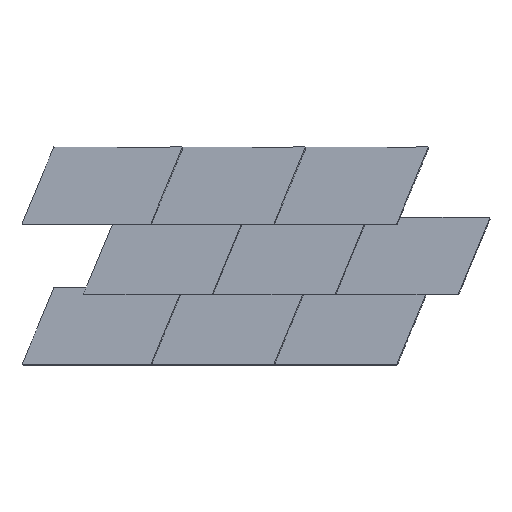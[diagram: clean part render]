
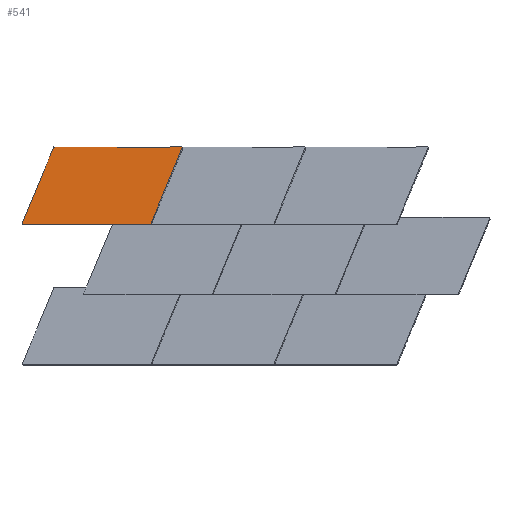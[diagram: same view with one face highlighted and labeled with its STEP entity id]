
A CAD part, top view. The second image highlights one B-rep face of the part: STEP entity #541.
In plain terms, the highlighted planar face has unit normal (-0.017, 0.044, 0.999).
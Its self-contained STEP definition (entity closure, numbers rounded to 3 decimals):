
#14=PLANE('',#1991);
#541=ADVANCED_FACE('',(#586),#14,.T.);
#586=FACE_OUTER_BOUND('',#631,.T.);
#631=EDGE_LOOP('',(#689,#690,#691,#692,#693,#694,#695,#696,#697,#698,#699,
#700));
#689=ORIENTED_EDGE('',*,*,#1004,.F.);
#690=ORIENTED_EDGE('',*,*,#1005,.F.);
#691=ORIENTED_EDGE('',*,*,#1006,.T.);
#692=ORIENTED_EDGE('',*,*,#1008,.T.);
#693=ORIENTED_EDGE('',*,*,#1013,.T.);
#694=ORIENTED_EDGE('',*,*,#1011,.T.);
#695=ORIENTED_EDGE('',*,*,#1009,.T.);
#696=ORIENTED_EDGE('',*,*,#1010,.T.);
#697=ORIENTED_EDGE('',*,*,#1014,.T.);
#698=ORIENTED_EDGE('',*,*,#1015,.T.);
#699=ORIENTED_EDGE('',*,*,#1007,.T.);
#700=ORIENTED_EDGE('',*,*,#1012,.T.);
#1004=EDGE_CURVE('',#1645,#1644,#1310,.T.);
#1005=EDGE_CURVE('',#1646,#1645,#1311,.T.);
#1006=EDGE_CURVE('',#1646,#1647,#1312,.T.);
#1007=EDGE_CURVE('',#1654,#1655,#1313,.T.);
#1008=EDGE_CURVE('',#1647,#1649,#1314,.T.);
#1009=EDGE_CURVE('',#1650,#1651,#1315,.T.);
#1010=EDGE_CURVE('',#1651,#1652,#1316,.T.);
#1011=EDGE_CURVE('',#1648,#1650,#1317,.T.);
#1012=EDGE_CURVE('',#1655,#1644,#1318,.T.);
#1013=EDGE_CURVE('',#1649,#1648,#1319,.T.);
#1014=EDGE_CURVE('',#1652,#1653,#1320,.T.);
#1015=EDGE_CURVE('',#1653,#1654,#1530,.T.);
#1310=B_SPLINE_CURVE_WITH_KNOTS('',1,(#2141,#2142),.UNSPECIFIED.,.F.,.F.,
(2,2),(-281.876,0.),.UNSPECIFIED.);
#1311=B_SPLINE_CURVE_WITH_KNOTS('',1,(#2143,#2144),.UNSPECIFIED.,.F.,.F.,
(2,2),(0.,3.262),.UNSPECIFIED.);
#1312=B_SPLINE_CURVE_WITH_KNOTS('',1,(#2145,#2146),.UNSPECIFIED.,.F.,.F.,
(2,2),(0.,433.287),.UNSPECIFIED.);
#1313=B_SPLINE_CURVE_WITH_KNOTS('',1,(#2147,#2148),.UNSPECIFIED.,.F.,.F.,
(2,2),(0.,0.),.UNSPECIFIED.);
#1314=B_SPLINE_CURVE_WITH_KNOTS('',1,(#2149,#2150),.UNSPECIFIED.,.F.,.F.,
(2,2),(433.287,435.209),.UNSPECIFIED.);
#1315=B_SPLINE_CURVE_WITH_KNOTS('',1,(#2151,#2152),.UNSPECIFIED.,.F.,.F.,
(2,2),(0.,0.236),.UNSPECIFIED.);
#1316=B_SPLINE_CURVE_WITH_KNOTS('',1,(#2153,#2154),.UNSPECIFIED.,.F.,.F.,
(2,2),(-284.584,0.),.UNSPECIFIED.);
#1317=B_SPLINE_CURVE_WITH_KNOTS('',1,(#2155,#2156),.UNSPECIFIED.,.F.,.F.,
(2,2),(-2.461,0.),.UNSPECIFIED.);
#1318=B_SPLINE_CURVE_WITH_KNOTS('',1,(#2157,#2158),.UNSPECIFIED.,.F.,.F.,
(2,2),(0.,434.961),.UNSPECIFIED.);
#1319=B_SPLINE_CURVE_WITH_KNOTS('',1,(#2159,#2160),.UNSPECIFIED.,.F.,.F.,
(2,2),(0.,0.),.UNSPECIFIED.);
#1320=B_SPLINE_CURVE_WITH_KNOTS('',1,(#2161,#2162),.UNSPECIFIED.,.F.,.F.,
(2,2),(0.,2.3),.UNSPECIFIED.);
#1530=(
BOUNDED_CURVE()
B_SPLINE_CURVE(2,(#2163,#2164,#2165),.UNSPECIFIED.,.F.,.F.)
B_SPLINE_CURVE_WITH_KNOTS((3,3),(-2.629,0.),.UNSPECIFIED.)
CURVE()
GEOMETRIC_REPRESENTATION_ITEM()
RATIONAL_B_SPLINE_CURVE((1.,0.991,1.))
REPRESENTATION_ITEM('')
);
#1644=VERTEX_POINT('',#2129);
#1645=VERTEX_POINT('',#2130);
#1646=VERTEX_POINT('',#2131);
#1647=VERTEX_POINT('',#2132);
#1648=VERTEX_POINT('',#2133);
#1649=VERTEX_POINT('',#2134);
#1650=VERTEX_POINT('',#2135);
#1651=VERTEX_POINT('',#2136);
#1652=VERTEX_POINT('',#2137);
#1653=VERTEX_POINT('',#2138);
#1654=VERTEX_POINT('',#2139);
#1655=VERTEX_POINT('',#2140);
#1991=AXIS2_PLACEMENT_3D('',#2128,#2013,$);
#2013=DIRECTION('',(-0.017,0.044,0.999));
#2128=CARTESIAN_POINT('',(-796.211,125.805,9.91));
#2129=CARTESIAN_POINT('',(-301.72,152.697,16.983));
#2130=CARTESIAN_POINT('',(-193.866,412.946,7.398));
#2131=CARTESIAN_POINT('',(-195.114,415.956,7.246));
#2132=CARTESIAN_POINT('',(-628.341,415.64,0.032));
#2133=CARTESIAN_POINT('',(-630.262,415.639,0.));
#2134=CARTESIAN_POINT('',(-630.262,415.639,0.));
#2135=CARTESIAN_POINT('',(-632.536,416.578,-0.079));
#2136=CARTESIAN_POINT('',(-632.453,416.357,-0.068));
#2137=CARTESIAN_POINT('',(-741.344,153.608,9.609));
#2138=CARTESIAN_POINT('',(-739.219,152.73,9.683));
#2139=CARTESIAN_POINT('',(-736.621,152.388,9.741));
#2140=CARTESIAN_POINT('',(-736.621,152.388,9.741));
#2141=CARTESIAN_POINT('',(-193.866,412.946,7.398));
#2142=CARTESIAN_POINT('',(-301.72,152.697,16.983));
#2143=CARTESIAN_POINT('',(-195.114,415.956,7.246));
#2144=CARTESIAN_POINT('',(-193.866,412.946,7.398));
#2145=CARTESIAN_POINT('',(-195.114,415.956,7.246));
#2146=CARTESIAN_POINT('',(-628.341,415.64,0.032));
#2147=CARTESIAN_POINT('',(-736.621,152.388,9.741));
#2148=CARTESIAN_POINT('',(-736.621,152.388,9.741));
#2149=CARTESIAN_POINT('',(-628.341,415.64,0.032));
#2150=CARTESIAN_POINT('',(-630.262,415.639,0.));
#2151=CARTESIAN_POINT('',(-632.536,416.578,-0.079));
#2152=CARTESIAN_POINT('',(-632.453,416.357,-0.068));
#2153=CARTESIAN_POINT('',(-632.453,416.357,-0.068));
#2154=CARTESIAN_POINT('',(-741.344,153.608,9.609));
#2155=CARTESIAN_POINT('',(-630.262,415.639,0.));
#2156=CARTESIAN_POINT('',(-632.536,416.578,-0.079));
#2157=CARTESIAN_POINT('',(-736.621,152.388,9.741));
#2158=CARTESIAN_POINT('',(-301.72,152.697,16.983));
#2159=CARTESIAN_POINT('',(-630.262,415.639,0.));
#2160=CARTESIAN_POINT('',(-630.262,415.639,0.));
#2161=CARTESIAN_POINT('',(-741.344,153.608,9.609));
#2162=CARTESIAN_POINT('',(-739.219,152.73,9.683));
#2163=CARTESIAN_POINT('',(-739.219,152.73,9.683));
#2164=CARTESIAN_POINT('',(-737.943,152.388,9.719));
#2165=CARTESIAN_POINT('',(-736.621,152.388,9.741));
